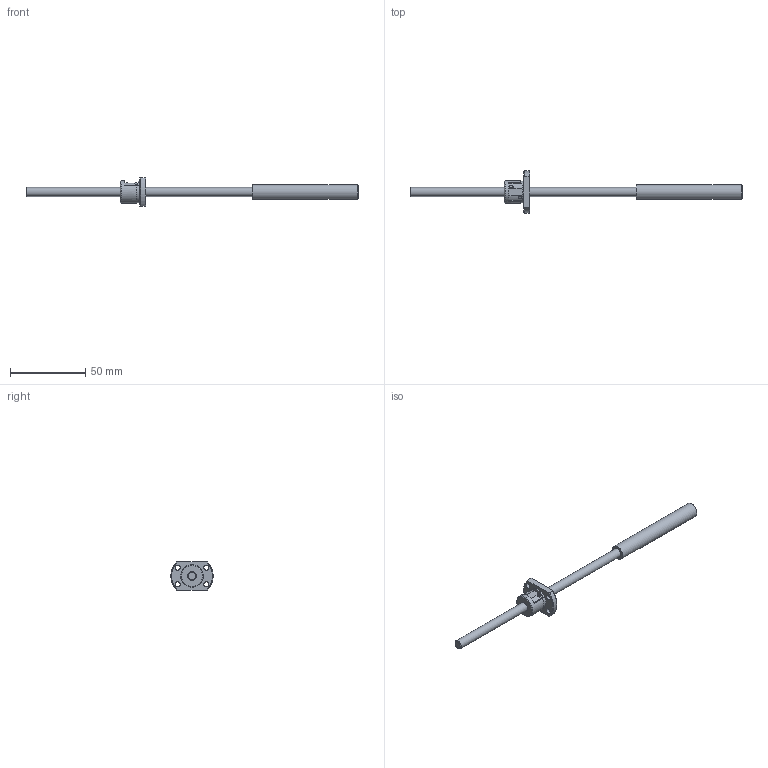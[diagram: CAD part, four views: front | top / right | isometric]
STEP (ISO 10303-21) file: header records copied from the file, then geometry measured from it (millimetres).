
FILE_DESCRIPTION(/* description */ ('STEP AP214'),/* implementation_level */ '2;1');
FILE_NAME(/* name */ 'SRT0602-146R220C7A0X(62.5None)',/* time_stamp */ '2026-08-04T17:55:05+02:00',/* author */ ('License CC BY-ND 4.0'),/* organization */ ('CADENAS'),/* preprocessor_version */ 'ST-DEVELOPER v20',/* originating_system */ 'PARTsolutions',/* authorisation */ ' ');
FILE_SCHEMA (('AUTOMOTIVE_DESIGN {1 0 10303 214 3 1 1}'));
Length unit declared in the file: millimetre
Products named in the file (3): SRT0602-146R220C7A0X(62.5None); SRT0602-146R220ACt7None17Shaft; SRT0602Nut
Assembly tree (2 placements, depth 2):
  SRT0602-146R220C7A0X(62.5None)
    SRT0602-146R220ACt7None17Shaft
    SRT0602Nut
Bounding box: 220 x 27.9 x 19 mm (x, y, z)
Volume: 12853.7 mm3; surface area: 7373 mm2
Topology: 2 solids, 2 shells, 56 faces, 135 edges, 87 vertices
Faces by surface type: plane 26, cone 15, cylinder 15
Full cylindrical faces by diameter (mm): 2 x2, 3.4 x4, 6 x2, 9.7 x1, 14.5 x1, 15 x1
Entity records: 1599 total; most frequent: CARTESIAN_POINT 319, DIRECTION 260, ORIENTED_EDGE 218, AXIS2_PLACEMENT_3D 112, EDGE_CURVE 109, EDGE_LOOP 86, FACE_BOUND 86, VERTEX_POINT 77
